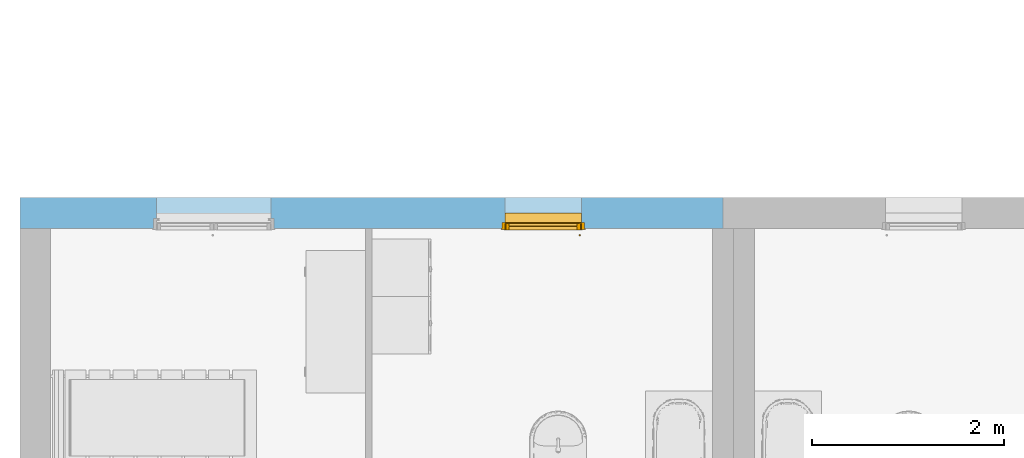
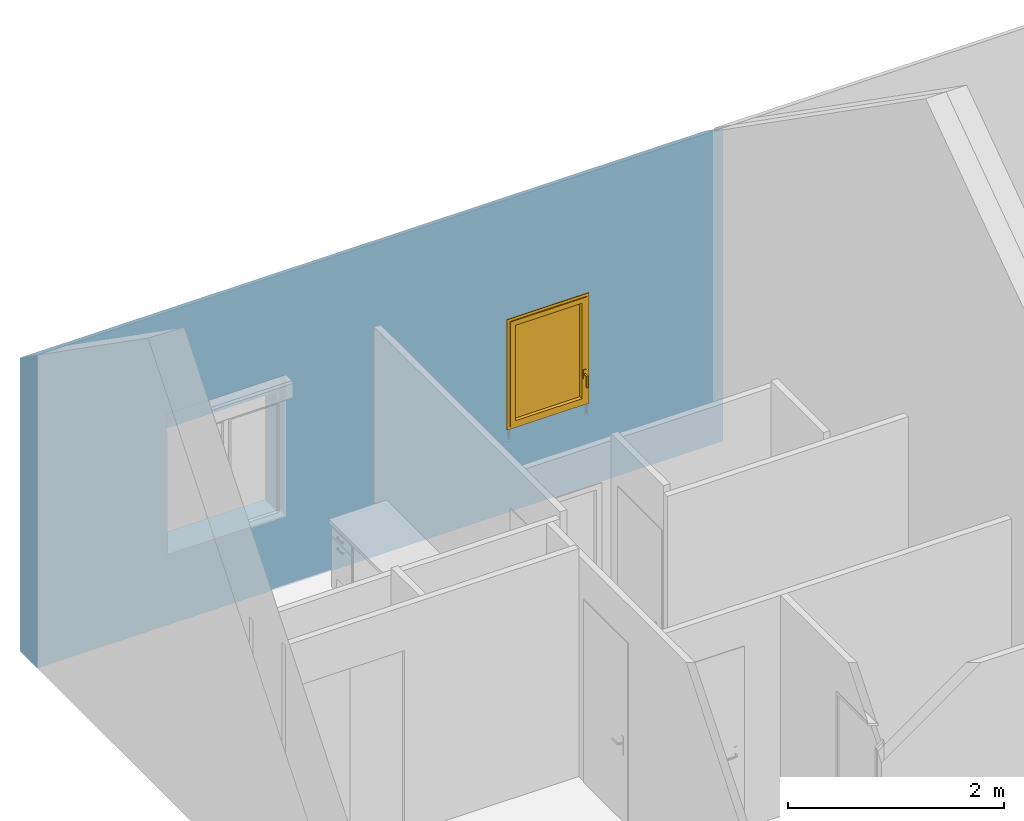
# One storey, part 47 of 61: 1 window, 2 openings, plus 1 element that does not belong to this part.
"""IFC2X3 building model written with IfcOpenShell, lengths in metres."""

from ifc_helpers import new_model, entity, si_unit, converted_unit, derived_unit, direction, frame, frame_2d, origin, place, context, subcontext, project, spatial, polyline, rectangle, extrude, clip, bounded_halfspace, faceted_brep, source, transform, mapped, material, material_list, layer, layer_set, layer_usage, type_object, type_shapes, element, fill, save


model = new_model("IFC2X3")

# Units and contexts
model_context = context("Model", 3, precision=1e-05, world=origin(), true_north=direction((6.12303176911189e-17, 1.0)))
body_context = subcontext(model_context, "Body", "Model", "MODEL_VIEW")
ifc_project = project(units=[si_unit("LENGTHUNIT", "METRE"), si_unit("AREAUNIT", "SQUARE_METRE"), si_unit("VOLUMEUNIT", "CUBIC_METRE"), converted_unit("PLANEANGLEUNIT", "DEGREE", entity("IfcRatioMeasure", 0.0174532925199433), si_unit("PLANEANGLEUNIT", "RADIAN"), dimensions=[0, 0, 0, 0, 0, 0, 0]), si_unit("MASSUNIT", "GRAM", prefix="KILO"), derived_unit("MASSDENSITYUNIT", [(si_unit("MASSUNIT", "GRAM", prefix="KILO"), 1), (si_unit("LENGTHUNIT", "METRE"), -3)]), si_unit("TIMEUNIT", "SECOND"), si_unit("FREQUENCYUNIT", "HERTZ"), si_unit("THERMODYNAMICTEMPERATUREUNIT", "DEGREE_CELSIUS"), derived_unit("THERMALTRANSMITTANCEUNIT", [(si_unit("MASSUNIT", "GRAM", prefix="KILO"), 1), (si_unit("THERMODYNAMICTEMPERATUREUNIT", "KELVIN"), -1), (si_unit("TIMEUNIT", "SECOND"), -3)]), derived_unit("VOLUMETRICFLOWRATEUNIT", [(si_unit("LENGTHUNIT", "METRE"), 3), (si_unit("TIMEUNIT", "SECOND"), -1)]), si_unit("ELECTRICCURRENTUNIT", "AMPERE"), si_unit("ELECTRICVOLTAGEUNIT", "VOLT"), si_unit("POWERUNIT", "WATT"), si_unit("FORCEUNIT", "NEWTON", prefix="KILO"), si_unit("ILLUMINANCEUNIT", "LUX"), si_unit("LUMINOUSFLUXUNIT", "LUMEN"), si_unit("LUMINOUSINTENSITYUNIT", "CANDELA"), derived_unit("USERDEFINED", [(si_unit("MASSUNIT", "GRAM", prefix="KILO"), -1), (si_unit("LENGTHUNIT", "METRE"), -2), (si_unit("TIMEUNIT", "SECOND"), 3), (si_unit("LUMINOUSFLUXUNIT", "LUMEN"), 1)]), derived_unit("LINEARVELOCITYUNIT", [(si_unit("LENGTHUNIT", "METRE"), 1), (si_unit("TIMEUNIT", "SECOND"), -1)]), si_unit("PRESSUREUNIT", "PASCAL"), derived_unit("USERDEFINED", [(si_unit("LENGTHUNIT", "METRE"), -2), (si_unit("MASSUNIT", "GRAM", prefix="KILO"), 1), (si_unit("TIMEUNIT", "SECOND"), -2)])], contexts=[model_context])

# Site, building, storey
site_placement = place(None, origin())
site = spatial("IfcSite", under=ifc_project, at=site_placement, Name="Surface", CompositionType="ELEMENT")
building_placement = place(site_placement, origin())
building = spatial("IfcBuilding", under=site, at=building_placement, CompositionType="ELEMENT")
storey_placement = place(building_placement, frame((0.0, 0.0, 2.82)))
storey = spatial("IfcBuildingStorey", under=building, at=storey_placement, Name="ETAGE", CompositionType="ELEMENT", Elevation=2.82)

# Wall, openings, window
ifc_material_1 = material(Name="Enduit blanc cassé2")
ifc_layer_1 = layer(ifc_material_1, 0.02)
ifc_material_2 = material(Name="Parpaing")
ifc_layer_2 = layer(ifc_material_2, 0.2)
ifc_material_3 = material(Name="Isolant")
ifc_layer_3 = layer(ifc_material_3, 0.1)
ifc_layer_set = layer_set([ifc_layer_1, ifc_layer_2, ifc_layer_3], Name="Mur de base:Ext. Parpaing 20 + Isolant 10 enduit blanc cassé")
ifc_layer_usage = layer_usage(ifc_layer_set, "AXIS2", "POSITIVE", -0.16)
wall_type = type_object("IfcWallType", Name="Mur de base:Ext. Parpaing 20 + Isolant 10 enduit blanc cassé", PredefinedType="STANDARD", material=ifc_layer_set)
wall_placement = place(storey_placement, frame((68.725009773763, 88.2677566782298, 0.0), z_axis=(0.0, 0.0, 1.0), x_axis=(-1.0, 0.0, 0.0)))
wall = element("IfcWallStandardCase", 1, at=wall_placement, inside=storey, type_object=wall_type, material=ifc_layer_usage, Name="Mur de base:Ext. Parpaing 20 + Isolant 10 enduit blanc cassé", ObjectType="Mur de base:Ext. Parpaing 20 + Isolant 10 enduit blanc cassé", context=body_context, shape_type="Clipping", body=[
    clip(extrude(rectangle(XDim=7.33864635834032, YDim=0.319999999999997, at=frame_2d((3.66932317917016, -5.41233724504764e-16), x_axis=(-1.0, 0.0))), origin(), (0.0, 0.0, 1.0), 3.5440664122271), bounded_halfspace(frame((0.0, -0.159999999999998, 3.32), z_axis=(0.0, -0.573576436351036, 0.819152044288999), x_axis=(1.0, 0.0, 0.0)), False, frame((0.0, -0.159999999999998, 3.32)), polyline([(0.0, 0.0), (7.33864635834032, 0.0), (7.33864635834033, 0.319999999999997), (7.01864635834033, 0.319999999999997), (0.110000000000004, 0.319999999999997), (0.0, 0.319999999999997), (0.0, 0.0)]))),
])
opening_1_placement = place(wall_placement, frame((2.30644170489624, 0.259999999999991, 0.799999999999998), z_axis=(0.0, 0.0, 1.0), x_axis=(-1.0, 0.0, 0.0)))
opening_1 = element("IfcOpeningElement", 2, at=opening_1_placement, cuts=wall, Name="Mur de base:Ext. Parpaing 20 + Isolant 10 enduit blanc cassé", ObjectType="Opening", context=body_context, shape_type="Brep", body=[
    faceted_brep([(0.830000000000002, 0.720000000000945, 1.35), (0.0300000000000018, 0.720000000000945, 1.35), (0.0300000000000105, 0.159999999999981, 1.35), (0.830000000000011, 0.159999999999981, 1.35), (0.0300000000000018, 0.720000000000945, 0.150000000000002), (0.830000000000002, 0.720000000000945, 0.150000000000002), (0.830000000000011, 0.159999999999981, 0.150000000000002), (0.830000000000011, 0.0999999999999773, 0.150000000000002), (0.830000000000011, 0.0, 0.150000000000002), (0.0300000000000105, 0.0, 0.150000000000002), (0.0300000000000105, 0.0999999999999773, 0.150000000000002), (0.0300000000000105, 0.159999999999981, 0.150000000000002), (0.830000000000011, 0.0, 1.35), (0.0300000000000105, 0.0, 1.35), (0.830000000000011, 0.159999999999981, 0.0), (0.860000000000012, 0.159999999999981, 0.0), (0.860000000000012, 0.0999999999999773, 0.0), (0.830000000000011, 0.0999999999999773, 0.0), (0.860000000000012, 0.0999999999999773, 1.38), (0.0, 0.0999999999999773, 1.38), (0.0, 0.0999999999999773, 0.0), (0.0300000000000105, 0.0999999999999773, 0.0), (0.0300000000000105, 0.0999999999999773, 1.35), (0.830000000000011, 0.0999999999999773, 1.35), (0.860000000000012, 0.159999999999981, 1.38), (0.0300000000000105, 0.159999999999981, 0.0), (0.0, 0.159999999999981, 0.0), (0.0, 0.159999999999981, 1.38)], [[[0, 1, 2, 3]], [[4, 5, 6, 7, 8, 9, 10, 11]], [[1, 0, 5, 4]], [[5, 0, 3, 6]], [[12, 13, 9, 8]], [[1, 4, 11, 2]], [[14, 15, 16, 17]], [[14, 17, 7, 6]], [[17, 16, 18, 19, 20, 21, 10, 22, 23, 7]], [[16, 15, 24, 18]], [[15, 14, 6, 3, 2, 11, 25, 26, 27, 24]], [[19, 18, 24, 27]], [[21, 20, 26, 25]], [[21, 25, 11, 10]], [[20, 19, 27, 26]], [[9, 13, 22, 10]], [[12, 8, 7, 23]], [[13, 12, 23, 22]]]),
])
opening_2_placement = place(wall_placement, frame((5.95557317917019, 0.260000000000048, 0.799999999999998), z_axis=(0.0, 0.0, 1.0), x_axis=(-1.0, 0.0, 0.0)))
element("IfcOpeningElement", 3, at=opening_2_placement, cuts=wall, Name="Mur de base:Ext. Parpaing 20 + Isolant 10 enduit blanc cassé", ObjectType="Opening", context=body_context, shape_type="Brep", body=[
    faceted_brep([(1.24, 0.72000000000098, 1.35), (0.0400000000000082, 0.720000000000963, 1.35), (0.0400000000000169, 0.199999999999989, 1.35), (1.24000000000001, 0.200000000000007, 1.35), (0.0400000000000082, 0.720000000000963, 0.0), (1.24, 0.72000000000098, 0.0), (1.24000000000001, 0.200000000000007, 0.0), (1.27000000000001, 0.200000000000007, 0.0), (1.27000000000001, 0.100000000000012, 0.0), (1.24000000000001, 0.100000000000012, 0.0), (1.24000000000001, 0.0, 0.0), (0.0400000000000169, 0.0, 0.0), (0.0400000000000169, 0.0999999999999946, 0.0), (0.0100000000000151, 0.0999999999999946, 0.0), (0.0100000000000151, 0.199999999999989, 0.0), (0.0400000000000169, 0.199999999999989, 0.0), (1.24000000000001, 0.0, 1.35), (0.0400000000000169, 0.0, 1.35), (1.27000000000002, 0.0999999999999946, 1.38), (1.28000000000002, 0.100000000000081, 1.38000000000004), (1.28000000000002, 0.100000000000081, 1.59000000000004), (0.0, 0.100000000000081, 1.59000000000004), (0.0, 0.0999999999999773, 1.38000000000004), (0.0100000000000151, 0.0999999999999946, 1.38), (0.0400000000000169, 0.0999999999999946, 1.35), (1.24000000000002, 0.0999999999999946, 1.35), (1.27000000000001, 0.199999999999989, 1.38000000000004), (0.0100000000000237, 0.199999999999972, 1.38000000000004), (0.0, 0.200000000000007, 1.38000000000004), (0.0, 0.199999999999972, 1.59000000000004), (1.28000000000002, 0.200000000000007, 1.59000000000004), (1.28000000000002, 0.200000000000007, 1.38000000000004)], [[[0, 1, 2, 3]], [[4, 5, 6, 7, 8, 9, 10, 11, 12, 13, 14, 15]], [[1, 0, 5, 4]], [[5, 0, 3, 6]], [[16, 17, 11, 10]], [[1, 4, 15, 2]], [[9, 8, 18, 19, 20, 21, 22, 23, 13, 12, 24, 25]], [[8, 7, 26, 18]], [[7, 6, 3, 2, 15, 14, 27, 28, 29, 30, 31, 26]], [[13, 23, 27, 14]], [[31, 30, 20, 19]], [[28, 22, 21, 29]], [[31, 19, 18, 26]], [[20, 30, 29, 21]], [[22, 28, 27, 23]], [[11, 17, 24, 12]], [[16, 10, 9, 25]], [[17, 16, 25, 24]]]),
])
ifc_material_4 = material(Name="Plastique - Bouvet - Blanc W012")
ifc_material_5 = material(Name="Verre - Bouvet - Vitrage")
ifc_material_6 = material(Name="Polyamide - Bouvet - Joint-Intercalaire")
ifc_material_list_1 = material_list([ifc_material_4, ifc_material_5, ifc_material_6])
ifc_material_list_2 = material_list([ifc_material_4, ifc_material_5, ifc_material_6])
window_style = type_object("IfcWindowStyle", Name="800 x 120 ht", ConstructionType="NOTDEFINED", OperationType="NOTDEFINED", ParameterTakesPrecedence=False, Sizeable=False, material=ifc_material_list_2)
shared_shape = source(origin(), body_context, "Body", "Brep", [
    faceted_brep([(0.805000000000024, 0.590000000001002, 0.492500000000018), (0.805000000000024, 0.590000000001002, 0.507500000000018), (0.820000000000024, 0.590000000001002, 0.507500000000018), (0.820000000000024, 0.590000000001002, 0.492500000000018), (0.820000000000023, 0.555000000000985, 0.492500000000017), (0.805000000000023, 0.555000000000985, 0.492500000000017), (0.820000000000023, 0.540000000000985, 0.507500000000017), (0.820000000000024, 0.540000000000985, 0.3775), (0.820000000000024, 0.555000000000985, 0.3775), (0.805000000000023, 0.540000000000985, 0.507500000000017), (0.805000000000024, 0.555000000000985, 0.3775), (0.805000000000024, 0.540000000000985, 0.3775)], [[[0, 1, 2, 3]], [[3, 4, 5, 0]], [[2, 6, 7, 8, 4, 3]], [[1, 9, 6, 2]], [[0, 5, 10, 11, 9, 1]], [[10, 8, 7, 11]], [[4, 8, 10, 5]], [[9, 11, 7, 6]]]),
    faceted_brep([(0.797500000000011, 0.590000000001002, 0.550000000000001), (0.797500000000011, 0.590000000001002, 0.450000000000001), (0.827500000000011, 0.590000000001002, 0.450000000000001), (0.827500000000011, 0.590000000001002, 0.550000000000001), (0.797500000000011, 0.60000000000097, 0.550000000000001), (0.827500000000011, 0.60000000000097, 0.550000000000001), (0.827500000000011, 0.60000000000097, 0.450000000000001), (0.797500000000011, 0.60000000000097, 0.450000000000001)], [[[0, 1, 2, 3]], [[4, 5, 6, 7]], [[3, 5, 4, 0]], [[2, 6, 5, 3]], [[1, 7, 6, 2]], [[0, 4, 7, 1]]]),
    faceted_brep([(0.0630000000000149, 0.638000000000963, 0.213), (0.0630000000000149, 0.642000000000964, 0.213), (0.797000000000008, 0.642000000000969, 0.213), (0.797000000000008, 0.638000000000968, 0.213), (0.0630000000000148, 0.638000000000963, 1.31700000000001), (0.797000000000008, 0.638000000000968, 1.31700000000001), (0.797000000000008, 0.642000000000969, 1.31700000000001), (0.0630000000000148, 0.642000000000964, 1.31700000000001)], [[[0, 1, 2, 3]], [[4, 0, 3, 5]], [[5, 3, 2, 6]], [[6, 2, 1, 7]], [[7, 1, 0, 4]], [[4, 5, 6, 7]]]),
    faceted_brep([(0.797000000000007, 0.658000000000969, 1.31700000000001), (0.797000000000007, 0.658000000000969, 0.213), (0.797000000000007, 0.662000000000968, 0.213), (0.797000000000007, 0.662000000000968, 1.31700000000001), (0.0630000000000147, 0.662000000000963, 0.213), (0.0630000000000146, 0.662000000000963, 1.31700000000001), (0.0630000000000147, 0.658000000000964, 0.213), (0.0630000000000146, 0.658000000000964, 1.31700000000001)], [[[0, 1, 2, 3]], [[3, 2, 4, 5]], [[5, 4, 6, 7]], [[7, 6, 1, 0]], [[0, 3, 5, 7]], [[1, 6, 4, 2]]]),
    faceted_brep([(0.785000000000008, 0.658000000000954, 1.30499999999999), (0.785000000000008, 0.658000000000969, 0.225000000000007), (0.785000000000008, 0.642000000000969, 0.225000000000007), (0.785000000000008, 0.642000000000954, 1.30499999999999), (0.0750000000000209, 0.658000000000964, 0.225000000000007), (0.0750000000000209, 0.642000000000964, 0.225000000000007), (0.075000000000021, 0.642000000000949, 1.30499999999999), (0.0630000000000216, 0.642000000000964, 0.213000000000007), (0.797000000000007, 0.642000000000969, 0.213000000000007), (0.797000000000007, 0.642000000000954, 1.31699999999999), (0.0630000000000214, 0.642000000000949, 1.31699999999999), (0.0750000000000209, 0.658000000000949, 1.30499999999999), (0.797000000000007, 0.658000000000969, 0.213000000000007), (0.0630000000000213, 0.658000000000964, 0.213000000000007), (0.0630000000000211, 0.658000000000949, 1.31699999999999), (0.797000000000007, 0.658000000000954, 1.31699999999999)], [[[0, 1, 2, 3]], [[1, 4, 5, 2]], [[2, 5, 6, 3], [7, 8, 9, 10]], [[4, 11, 6, 5]], [[4, 1, 0, 11], [12, 13, 14, 15]], [[9, 8, 12, 15]], [[8, 7, 13, 12]], [[7, 10, 14, 13]], [[11, 0, 3, 6]], [[10, 9, 15, 14]]], outer=[[True], [True], [False, True], [True], [False, True], [True], [True], [True], [True], [True]]),
    faceted_brep([(0.797000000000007, 0.662000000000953, 1.31699999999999), (0.797000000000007, 0.662000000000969, 0.213000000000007), (0.797000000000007, 0.638000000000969, 0.213000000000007), (0.797000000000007, 0.638000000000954, 1.31699999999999), (0.0630000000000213, 0.662000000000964, 0.213000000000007), (0.0630000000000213, 0.638000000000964, 0.213000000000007), (0.0630000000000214, 0.638000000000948, 1.31699999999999), (0.0550000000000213, 0.638000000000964, 0.205000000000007), (0.805000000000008, 0.638000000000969, 0.205000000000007), (0.805000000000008, 0.638000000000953, 1.32499999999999), (0.0550000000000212, 0.638000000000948, 1.32499999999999), (0.0630000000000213, 0.662000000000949, 1.31699999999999), (0.805000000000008, 0.662000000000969, 0.205000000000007), (0.0550000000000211, 0.662000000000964, 0.205000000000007), (0.0550000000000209, 0.662000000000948, 1.32499999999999), (0.805000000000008, 0.662000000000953, 1.32499999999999)], [[[0, 1, 2, 3]], [[1, 4, 5, 2]], [[2, 5, 6, 3], [7, 8, 9, 10]], [[4, 11, 6, 5]], [[4, 1, 0, 11], [12, 13, 14, 15]], [[9, 8, 12, 15]], [[8, 7, 13, 12]], [[7, 10, 14, 13]], [[11, 0, 3, 6]], [[10, 9, 15, 14]]], outer=[[True], [True], [False, True], [True], [False, True], [True], [True], [True], [True], [True]]),
    faceted_brep([(0.820000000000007, 0.650000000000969, 1.33999999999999), (0.820000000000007, 0.650000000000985, 0.190000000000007), (0.820000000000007, 0.670000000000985, 0.190000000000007), (0.820000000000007, 0.670000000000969, 1.33999999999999), (0.0400000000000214, 0.650000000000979, 0.190000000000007), (0.0400000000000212, 0.670000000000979, 0.190000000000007), (0.0400000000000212, 0.670000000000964, 1.33999999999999), (0.0750000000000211, 0.670000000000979, 0.225000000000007), (0.785000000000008, 0.670000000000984, 0.225000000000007), (0.785000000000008, 0.670000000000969, 1.30499999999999), (0.0750000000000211, 0.670000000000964, 1.30499999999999), (0.0400000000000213, 0.650000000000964, 1.33999999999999), (0.805000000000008, 0.650000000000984, 0.205000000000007), (0.0550000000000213, 0.650000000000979, 0.205000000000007), (0.0550000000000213, 0.650000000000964, 1.32499999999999), (0.805000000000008, 0.650000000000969, 1.32499999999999), (0.805000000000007, 0.662000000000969, 1.32499999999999), (0.805000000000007, 0.662000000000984, 0.205000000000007), (0.0550000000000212, 0.662000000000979, 0.205000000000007), (0.0550000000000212, 0.662000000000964, 1.32499999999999), (0.785000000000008, 0.662000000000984, 0.225000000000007), (0.0750000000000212, 0.662000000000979, 0.225000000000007), (0.0750000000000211, 0.662000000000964, 1.30499999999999), (0.785000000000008, 0.662000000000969, 1.30499999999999)], [[[0, 1, 2, 3]], [[1, 4, 5, 2]], [[2, 5, 6, 3], [7, 8, 9, 10]], [[4, 11, 6, 5]], [[4, 1, 0, 11], [12, 13, 14, 15]], [[16, 17, 12, 15]], [[17, 18, 13, 12]], [[18, 19, 14, 13]], [[18, 17, 16, 19], [20, 21, 22, 23]], [[9, 8, 20, 23]], [[8, 7, 21, 20]], [[7, 10, 22, 21]], [[11, 0, 3, 6]], [[19, 16, 15, 14]], [[10, 9, 23, 22]]]),
    faceted_brep([(0.785000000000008, 0.638000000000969, 1.30499999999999), (0.785000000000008, 0.638000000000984, 0.225000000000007), (0.785000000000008, 0.600000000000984, 0.225000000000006), (0.785000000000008, 0.600000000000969, 1.30499999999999), (0.0750000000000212, 0.638000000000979, 0.225000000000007), (0.0750000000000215, 0.600000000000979, 0.225000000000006), (0.0750000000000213, 0.600000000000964, 1.30499999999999), (0.0200000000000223, 0.600000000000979, 0.170000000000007), (0.840000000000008, 0.600000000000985, 0.170000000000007), (0.840000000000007, 0.600000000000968, 1.35999999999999), (0.0200000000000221, 0.600000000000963, 1.35999999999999), (0.0750000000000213, 0.638000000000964, 1.30499999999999), (0.805000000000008, 0.638000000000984, 0.205000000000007), (0.0550000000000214, 0.638000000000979, 0.205000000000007), (0.0550000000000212, 0.638000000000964, 1.32499999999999), (0.805000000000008, 0.638000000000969, 1.32499999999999), (0.805000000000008, 0.650000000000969, 1.32499999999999), (0.805000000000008, 0.650000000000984, 0.205000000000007), (0.0550000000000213, 0.650000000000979, 0.205000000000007), (0.0550000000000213, 0.650000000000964, 1.32499999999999), (0.820000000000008, 0.650000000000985, 0.190000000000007), (0.0400000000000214, 0.650000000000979, 0.190000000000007), (0.0400000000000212, 0.650000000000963, 1.33999999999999), (0.820000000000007, 0.650000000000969, 1.33999999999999), (0.820000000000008, 0.610000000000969, 1.33999999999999), (0.820000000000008, 0.610000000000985, 0.190000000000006), (0.0400000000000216, 0.61000000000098, 0.190000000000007), (0.0400000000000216, 0.610000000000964, 1.33999999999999), (0.840000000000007, 0.610000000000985, 0.170000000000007), (0.0200000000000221, 0.61000000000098, 0.170000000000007), (0.020000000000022, 0.610000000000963, 1.35999999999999), (0.840000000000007, 0.610000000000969, 1.35999999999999)], [[[0, 1, 2, 3]], [[1, 4, 5, 2]], [[2, 5, 6, 3], [7, 8, 9, 10]], [[4, 11, 6, 5]], [[4, 1, 0, 11], [12, 13, 14, 15]], [[16, 17, 12, 15]], [[17, 18, 13, 12]], [[18, 19, 14, 13]], [[18, 17, 16, 19], [20, 21, 22, 23]], [[24, 25, 20, 23]], [[25, 26, 21, 20]], [[26, 27, 22, 21]], [[26, 25, 24, 27], [28, 29, 30, 31]], [[9, 8, 28, 31]], [[8, 7, 29, 28]], [[7, 10, 30, 29]], [[11, 0, 3, 6]], [[19, 16, 15, 14]], [[27, 24, 23, 22]], [[10, 9, 31, 30]]], outer=[[True], [True], [False, True], [True], [False, True], [True], [True], [True], [False, True], [True], [True], [True], [False, True], [True], [True], [True], [True], [True], [True], [True]]),
    faceted_brep([(0.0300000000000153, 0.68000000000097, 0.180000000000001), (0.0300000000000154, 0.658000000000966, 0.180000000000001), (0.830000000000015, 0.658000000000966, 0.180000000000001), (0.830000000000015, 0.680000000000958, 0.180000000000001), (0.0300000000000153, 0.68000000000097, 1.35), (0.830000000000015, 0.68000000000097, 1.35), (0.860000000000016, 0.68000000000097, 0.150000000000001), (0.0, 0.68000000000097, 0.150000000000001), (0.0, 0.68000000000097, 1.38000000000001), (0.860000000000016, 0.68000000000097, 1.38000000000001), (0.830000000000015, 0.658000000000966, 1.35), (0.0300000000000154, 0.658000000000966, 1.35), (0.860000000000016, 0.658000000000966, 1.38000000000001), (0.860000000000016, 0.658000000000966, 0.150000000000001), (0.0, 0.658000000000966, 0.150000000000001), (0.0, 0.658000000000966, 1.38000000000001)], [[[0, 1, 2, 3]], [[4, 0, 3, 5], [6, 7, 8, 9]], [[5, 3, 2, 10]], [[11, 1, 0, 4]], [[12, 13, 6, 9]], [[8, 7, 14, 15]], [[14, 7, 6, 13]], [[10, 2, 1, 11], [14, 13, 12, 15]], [[9, 8, 15, 12]], [[5, 10, 11, 4]]], outer=[[True], [False, True], [True], [True], [True], [True], [True], [False, True], [True], [True]]),
    faceted_brep([(0.810000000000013, 0.680000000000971, 1.33), (0.810000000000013, 0.680000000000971, 0.200000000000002), (0.810000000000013, 0.670000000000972, 0.200000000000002), (0.810000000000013, 0.670000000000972, 1.33), (0.0500000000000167, 0.680000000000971, 0.200000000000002), (0.0500000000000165, 0.670000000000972, 0.200000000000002), (0.0500000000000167, 0.670000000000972, 1.33), (0.0300000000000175, 0.670000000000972, 0.180000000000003), (0.830000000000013, 0.670000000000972, 0.180000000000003), (0.830000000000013, 0.670000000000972, 1.35), (0.0300000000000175, 0.670000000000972, 1.35), (0.0500000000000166, 0.680000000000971, 1.33), (0.830000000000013, 0.680000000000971, 0.180000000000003), (0.0300000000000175, 0.680000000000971, 0.180000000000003), (0.0300000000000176, 0.680000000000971, 1.35), (0.830000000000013, 0.680000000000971, 1.35)], [[[0, 1, 2, 3]], [[1, 4, 5, 2]], [[2, 5, 6, 3], [7, 8, 9, 10]], [[4, 11, 6, 5]], [[4, 1, 0, 11], [12, 13, 14, 15]], [[11, 0, 3, 6]], [[9, 8, 12, 15]], [[8, 7, 13, 12]], [[7, 10, 14, 13]], [[10, 9, 15, 14]]], outer=[[True], [True], [False, True], [True], [False, True], [True], [True], [True], [True], [True]]),
    faceted_brep([(0.860000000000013, 0.620000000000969, 1.38), (0.860000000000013, 0.620000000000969, 0.150000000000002), (0.860000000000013, 0.658000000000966, 0.150000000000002), (0.860000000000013, 0.658000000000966, 1.38), (0.0, 0.620000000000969, 0.150000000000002), (0.0, 0.658000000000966, 0.150000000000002), (0.0, 0.658000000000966, 1.38), (0.0300000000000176, 0.658000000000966, 0.180000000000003), (0.830000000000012, 0.658000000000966, 0.180000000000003), (0.830000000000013, 0.658000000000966, 1.35), (0.0300000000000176, 0.658000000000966, 1.35), (0.0, 0.620000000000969, 1.38), (0.870000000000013, 0.620000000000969, 0.140000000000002), (-0.00999999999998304, 0.620000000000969, 0.140000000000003), (-0.0099999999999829, 0.620000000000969, 1.39), (0.870000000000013, 0.620000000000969, 1.39), (0.870000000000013, 0.610000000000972, 1.39), (0.870000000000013, 0.610000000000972, 0.140000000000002), (-0.00999999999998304, 0.610000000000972, 0.140000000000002), (-0.00999999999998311, 0.610000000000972, 1.39), (0.830000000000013, 0.610000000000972, 0.180000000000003), (0.0300000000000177, 0.610000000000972, 0.180000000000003), (0.0300000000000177, 0.610000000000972, 1.35), (0.830000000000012, 0.610000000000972, 1.35)], [[[0, 1, 2, 3]], [[1, 4, 5, 2]], [[2, 5, 6, 3], [7, 8, 9, 10]], [[4, 11, 6, 5]], [[4, 1, 0, 11], [12, 13, 14, 15]], [[16, 17, 12, 15]], [[17, 18, 13, 12]], [[18, 19, 14, 13]], [[18, 17, 16, 19], [20, 21, 22, 23]], [[9, 8, 20, 23]], [[8, 7, 21, 20]], [[7, 10, 22, 21]], [[11, 0, 3, 6]], [[19, 16, 15, 14]], [[10, 9, 23, 22]]], outer=[[True], [True], [True, False], [True], [False, True], [True], [True], [True], [True, False], [True], [True], [True], [True], [True], [True]]),
    faceted_brep([(0.0300000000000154, 0.780000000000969, 0.160000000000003), (0.0300000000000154, 0.780000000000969, 0.150000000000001), (0.0300000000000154, 0.680000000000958, 0.150000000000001), (0.0300000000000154, 0.680000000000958, 0.165000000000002), (0.830000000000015, 0.780000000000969, 0.160000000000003), (0.830000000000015, 0.680000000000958, 0.165000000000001), (0.830000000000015, 0.680000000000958, 0.150000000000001), (0.830000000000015, 0.780000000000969, 0.150000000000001)], [[[0, 1, 2, 3]], [[4, 5, 6, 7]], [[3, 5, 4, 0]], [[2, 6, 5, 3]], [[1, 7, 6, 2]], [[0, 4, 7, 1]]]),
])
type_shapes(window_style, [shared_shape])
window_placement = place(opening_1_placement, frame((0.0, -0.520000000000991, 0.0)))
window = element("IfcWindow", 4, at=window_placement, inside=storey, type_object=window_style, material=ifc_material_list_1, Name="Windows_Opening-Hinge_BOUVET_Thermience_Fenetre_1V:800 x 120 ht", ObjectType="Windows_Opening-Hinge_BOUVET_Thermience_Fenetre_1V:800 x 120 ht", OverallHeight=1.39, OverallWidth=0.880000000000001, context=body_context, shape_type="MappedRepresentation", body=[
    mapped(shared_shape, transform((0.0, 0.0, 0.0), scale=1.0)),
])
fill(opening_1, window)

save(model, "model.ifc")
